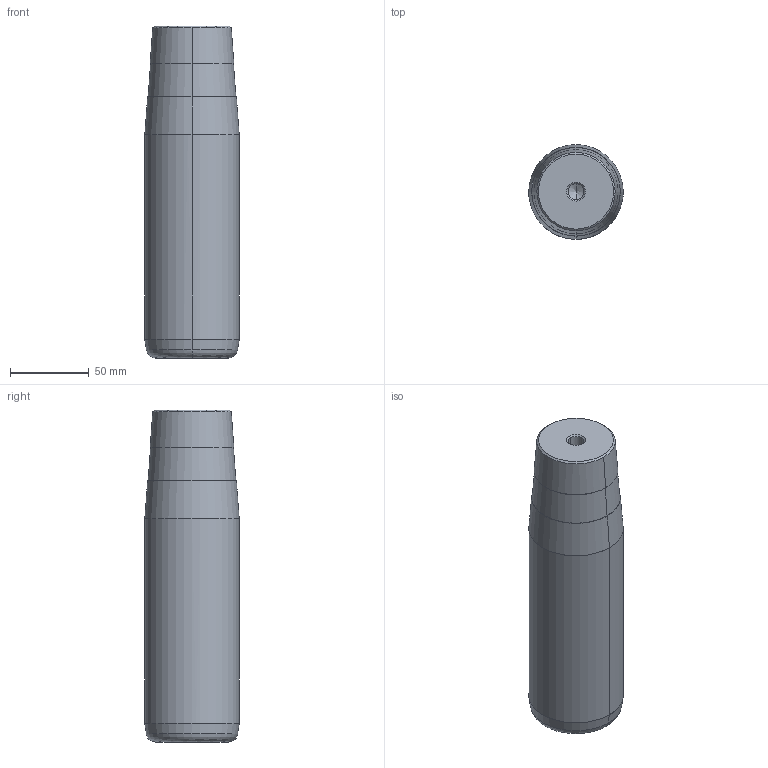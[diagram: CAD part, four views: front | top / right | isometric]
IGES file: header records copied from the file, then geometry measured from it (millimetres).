
Start section: START RECORD GO HERE.
Global section: file name: 722-60x160x211.igs; native system: DASSAULT SYSTEMES CATIA V5 R20 - www.3ds.com; preprocessor: CATIA Version 5 Release 20 ; author: Utente; organization: NB04-ASUS; date: 20210107.203519; units: millimetre
Bounding box: 60 x 60 x 211 mm (x, y, z)
Surface area: 44519.8 mm2 (no closed solid volume)
Topology: 0 solids, 0 shells, 32 faces, 192 edges, 188 vertices
Faces by surface type: revolution 30, plane 2
